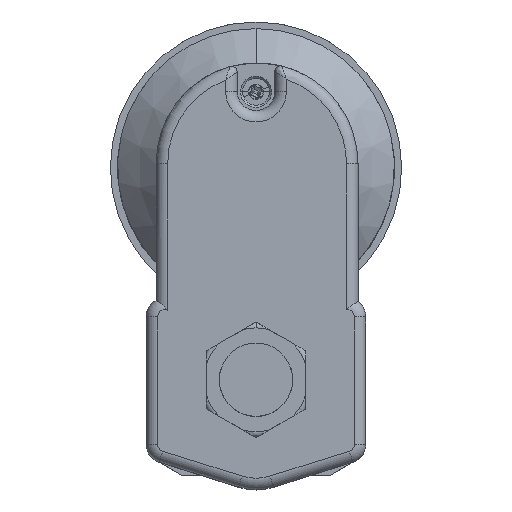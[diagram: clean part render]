
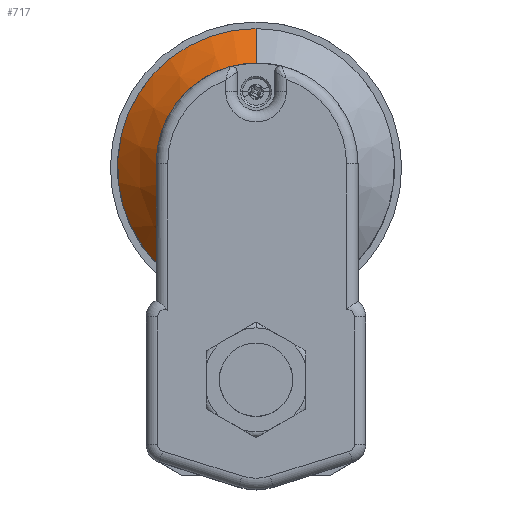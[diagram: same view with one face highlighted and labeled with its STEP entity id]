
A CAD part, top view. The second image highlights one B-rep face of the part: STEP entity #717.
In plain terms, the highlighted conical face has half-angle 45 degrees and reference radius 48 mm.
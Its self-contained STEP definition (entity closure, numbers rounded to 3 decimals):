
#372 = ORIENTED_EDGE ( 'NONE', *, *, #1660, .F. ) ;
#373 = ORIENTED_EDGE ( 'NONE', *, *, #3753, .F. ) ;
#374 = ORIENTED_EDGE ( 'NONE', *, *, #3016, .T. ) ;
#375 = ORIENTED_EDGE ( 'NONE', *, *, #3801, .T. ) ;
#376 = ORIENTED_EDGE ( 'NONE', *, *, #3769, .T. ) ;
#717 = ADVANCED_FACE ( 'NONE', ( #3996 ), #3997, .T. ) ;
#1342 = B_SPLINE_CURVE_WITH_KNOTS ( 'NONE', 3,
 ( #9499, #9503, #9504, #9505, #9506, #9507, #9508, #9509, #9510, #9511, #9512, #9513, #9514, #9515, #9516, #9517 ),
 .UNSPECIFIED., .F., .F.,
 ( 4, 2, 2, 2, 2, 2, 2, 4 ),
 ( 0., 0.004, 0.007, 0.015, 0.018, 0.022, 0.026, 0.029 ),
 .UNSPECIFIED. ) ;
#1660 = EDGE_CURVE ( 'NONE', #5218, #5222, #4368, .T. ) ;
#1772 = CARTESIAN_POINT ( 'NONE',  ( 0., 25.9, 53.5 ) ) ;
#1837 = DIRECTION ( 'NONE',  ( 0., -0.707, -0.707 ) ) ;
#2803 = EDGE_LOOP ( 'NONE', ( #372, #373, #374, #375, #376 ) ) ;
#3016 = EDGE_CURVE ( 'NONE', #5219, #5224, #4972, .T. ) ;
#3753 = EDGE_CURVE ( 'NONE', #5219, #5218, #8533, .T. ) ;
#3769 = EDGE_CURVE ( 'NONE', #5269, #5222, #1342, .T. ) ;
#3801 = EDGE_CURVE ( 'NONE', #5224, #5269, #8601, .T. ) ;
#3996 = FACE_OUTER_BOUND ( 'NONE', #2803, .T. ) ;
#3997 = CONICAL_SURFACE ( 'NONE', #6375, 48., 0.785 ) ;
#4368 = LINE ( 'NONE', #1772, #4378 ) ;
#4378 = VECTOR ( 'NONE', #1837, 1000. ) ;
#4970 = VECTOR ( 'NONE', #8041, 1000. ) ;
#4972 = LINE ( 'NONE', #8040, #4970 ) ;
#5218 = VERTEX_POINT ( 'NONE', #10043 ) ;
#5219 = VERTEX_POINT ( 'NONE', #10044 ) ;
#5222 = VERTEX_POINT ( 'NONE', #10047 ) ;
#5224 = VERTEX_POINT ( 'NONE', #10049 ) ;
#5269 = VERTEX_POINT ( 'NONE', #10094 ) ;
#6375 = AXIS2_PLACEMENT_3D ( 'NONE', #11172, #10966, #10971 ) ;
#6798 = AXIS2_PLACEMENT_3D ( 'NONE', #9425, #9446, #9447 ) ;
#6820 = AXIS2_PLACEMENT_3D ( 'NONE', #9589, #9596, #9597 ) ;
#8040 = CARTESIAN_POINT ( 'NONE',  ( 0., 121.9, 53.5 ) ) ;
#8041 = DIRECTION ( 'NONE',  ( 0., 0.707, -0.707 ) ) ;
#8533 = CIRCLE ( 'NONE', #6798, 34. ) ;
#8601 = CIRCLE ( 'NONE', #6820, 48. ) ;
#9425 = CARTESIAN_POINT ( 'NONE',  ( 0., 73.9, 67.5 ) ) ;
#9446 = DIRECTION ( 'NONE',  ( 0., 0., 1. ) ) ;
#9447 = DIRECTION ( 'NONE',  ( 0., -1., 0. ) ) ;
#9499 = CARTESIAN_POINT ( 'NONE',  ( -27.908, 34.847, 53.5 ) ) ;
#9503 = CARTESIAN_POINT ( 'NONE',  ( -26.827, 34.768, 54.064 ) ) ;
#9504 = CARTESIAN_POINT ( 'NONE',  ( -25.735, 34.688, 54.607 ) ) ;
#9505 = CARTESIAN_POINT ( 'NONE',  ( -23.536, 34.53, 55.642 ) ) ;
#9506 = CARTESIAN_POINT ( 'NONE',  ( -22.427, 34.452, 56.134 ) ) ;
#9507 = CARTESIAN_POINT ( 'NONE',  ( -19.07, 34.223, 57.526 ) ) ;
#9508 = CARTESIAN_POINT ( 'NONE',  ( -16.792, 34.078, 58.34 ) ) ;
#9509 = CARTESIAN_POINT ( 'NONE',  ( -13.298, 33.888, 59.351 ) ) ;
#9510 = CARTESIAN_POINT ( 'NONE',  ( -12.12, 33.829, 59.653 ) ) ;
#9511 = CARTESIAN_POINT ( 'NONE',  ( -9.737, 33.725, 60.179 ) ) ;
#9512 = CARTESIAN_POINT ( 'NONE',  ( -8.529, 33.68, 60.403 ) ) ;
#9513 = CARTESIAN_POINT ( 'NONE',  ( -6.107, 33.606, 60.763 ) ) ;
#9514 = CARTESIAN_POINT ( 'NONE',  ( -4.891, 33.577, 60.9 ) ) ;
#9515 = CARTESIAN_POINT ( 'NONE',  ( -2.446, 33.539, 61.083 ) ) ;
#9516 = CARTESIAN_POINT ( 'NONE',  ( -1.22, 33.529, 61.129 ) ) ;
#9517 = CARTESIAN_POINT ( 'NONE',  ( 0., 33.529, 61.129 ) ) ;
#9589 = CARTESIAN_POINT ( 'NONE',  ( 0., 73.9, 53.5 ) ) ;
#9596 = DIRECTION ( 'NONE',  ( 0., 0., 1. ) ) ;
#9597 = DIRECTION ( 'NONE',  ( 0., -1., 0. ) ) ;
#10043 = CARTESIAN_POINT ( 'NONE',  ( 0., 39.9, 67.5 ) ) ;
#10044 = CARTESIAN_POINT ( 'NONE',  ( 0., 107.9, 67.5 ) ) ;
#10047 = CARTESIAN_POINT ( 'NONE',  ( 0., 33.529, 61.129 ) ) ;
#10049 = CARTESIAN_POINT ( 'NONE',  ( 0., 121.9, 53.5 ) ) ;
#10094 = CARTESIAN_POINT ( 'NONE',  ( -27.908, 34.847, 53.5 ) ) ;
#10966 = DIRECTION ( 'NONE',  ( 0., 0., -1. ) ) ;
#10971 = DIRECTION ( 'NONE',  ( 0., 1., 0. ) ) ;
#11172 = CARTESIAN_POINT ( 'NONE',  ( 0., 73.9, 53.5 ) ) ;
